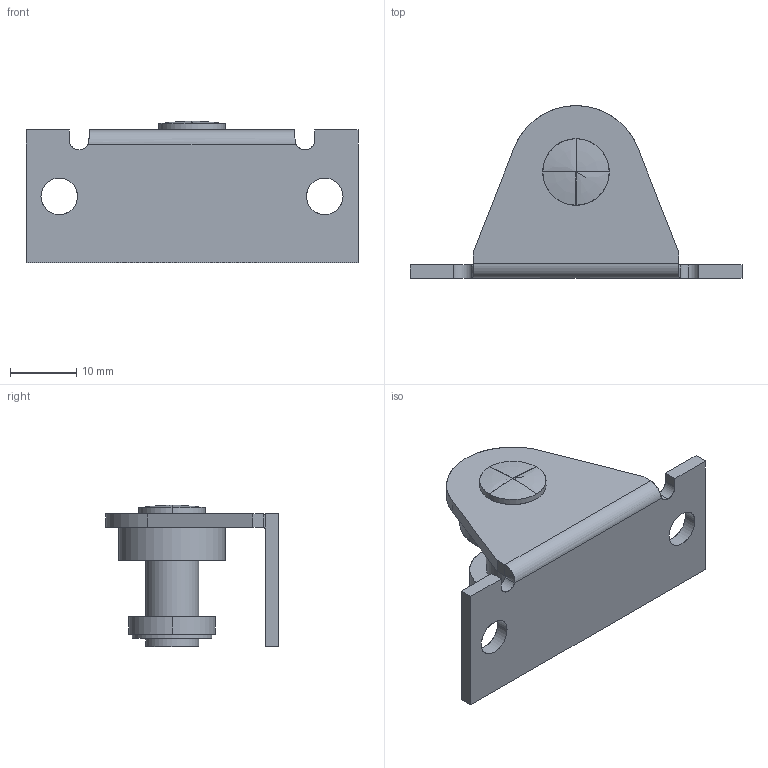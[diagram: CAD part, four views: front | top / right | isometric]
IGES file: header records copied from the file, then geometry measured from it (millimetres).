
Start section: SolidWorks IGES file using analytic representation for surfaces
Bounding box: 50 x 26 x 21.3 mm (x, y, z)
Surface area: 4350.3 mm2 (no closed solid volume)
Topology: 0 solids, 0 shells, 74 faces, 1147 edges, 1143 vertices
Faces by surface type: revolution 39, bspline 35
